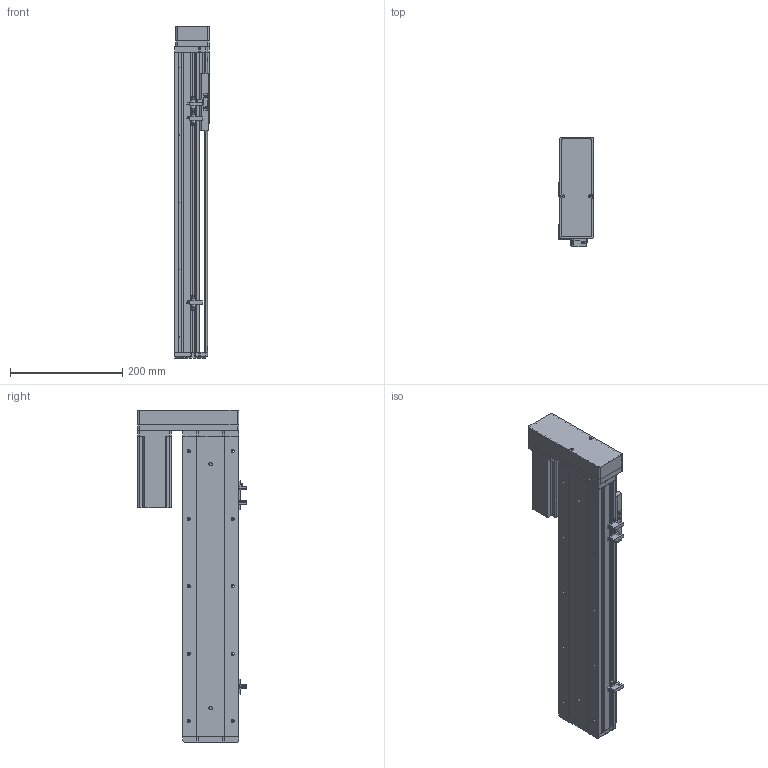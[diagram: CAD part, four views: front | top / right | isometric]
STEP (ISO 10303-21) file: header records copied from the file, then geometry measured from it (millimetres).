
FILE_DESCRIPTION (( 'STEP AP214' ), '1' );
FILE_NAME ('KSD100S-S350-ML-CM.STEP', '2019-08-30T05:59:55', ( '微软用户' ), ( '微软中国' ), 'SwSTEP 2.0', 'SolidWorks 2014', '' );
FILE_SCHEMA (( 'AUTOMOTIVE_DESIGN' ));
Length unit declared in the file: millimetre
Products named in the file (11): 100遵傷啣; 100宽底板半封闭丝杆350行程; KSD100S-S350-ML-CM; 悵誘欶酘衵殏; 台达ECMA－C20604AS伺服电机; 100宽马达安装板连板左右折丝杆; U倰嫖萇EEㄜSX672; 覜茼え100遵圉猾敕; 100宽防尘板丝杆350行程; 100遵鎮湛假蚾啣; 100宽滚珠螺姆安装板半封闭
Assembly tree (12 placements, depth 2):
  KSD100S-S350-ML-CM
    100宽底板半封闭丝杆350行程
    100遵傷啣
    100宽滚珠螺姆安装板半封闭
    100遵鎮湛假蚾啣
    100宽防尘板丝杆350行程
    覜茼え100遵圉猾敕
    U倰嫖萇EEㄜSX672  x3
    100宽马达安装板连板左右折丝杆
    台达ECMA－C20604AS伺服电机
    悵誘欶酘衵殏
Bounding box: 62 x 193.7 x 590.5 mm (x, y, z)
Volume: 1744496.5 mm3; surface area: 533203 mm2
Topology: 13 solids, 13 shells, 1149 faces, 3224 edges, 2061 vertices
Faces by surface type: cylinder 550, plane 496, cone 103
Entity records: 38897 total; most frequent: CARTESIAN_POINT 7143, DIRECTION 5371, ORIENTED_EDGE 5148, EDGE_CURVE 2574, AXIS2_PLACEMENT_3D 1941, VERTEX_POINT 1685, LINE 1489, VECTOR 1489
